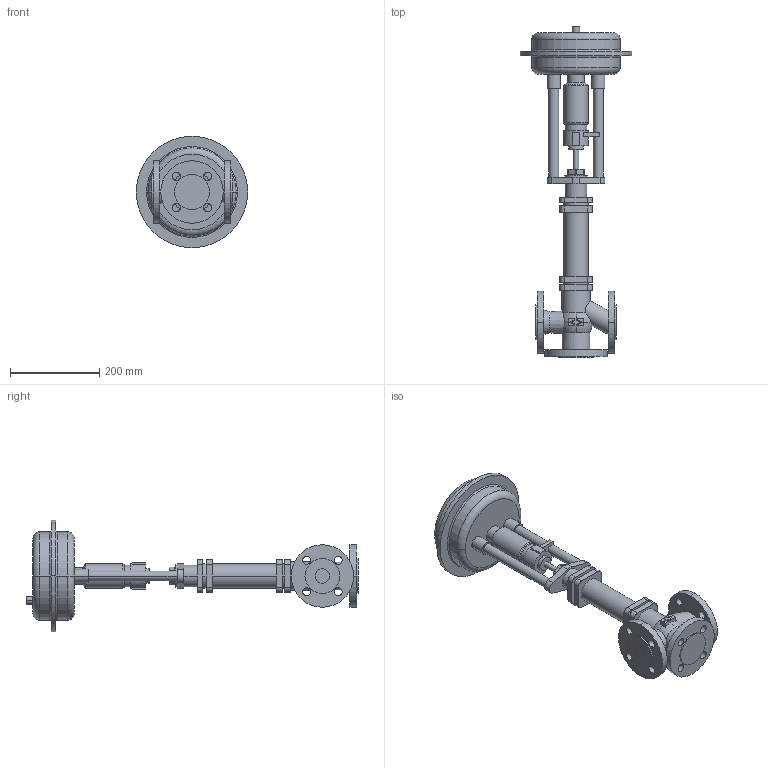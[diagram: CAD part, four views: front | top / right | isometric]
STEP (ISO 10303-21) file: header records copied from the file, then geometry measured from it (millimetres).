
FILE_DESCRIPTION(('OneSpaceDesigner STEP Export'),'2;1');
FILE_NAME('c000000430.stp','2006-09-20T 9:58:52',(''),(''),'OneSpace Designer STEP processor for AP214 (Solid Model)','OneSpace Designer 13.20A 18-Aug-2005 (C) CoCreate Software GmbH','');
FILE_SCHEMA(('AUTOMOTIVE_DESIGN { 1 0 10303 214 1 1 1 1 }'));
Length unit declared in the file: millimetre
Products named in the file (2): 1; 2
Bounding box: 250 x 745 x 250 mm (x, y, z)
Volume: 5661480 mm3; surface area: 452029 mm2
Topology: 2 solids, 2 shells, 243 faces, 595 edges, 389 vertices
Faces by surface type: cylinder 112, plane 100, torus 23, cone 8
Entity records: 6630 total; most frequent: CARTESIAN_POINT 1268, ORIENTED_EDGE 1190, DIRECTION 1002, EDGE_CURVE 595, VERTEX_POINT 389, AXIS2_PLACEMENT_3D 361, EDGE_LOOP 300, VECTOR 280
